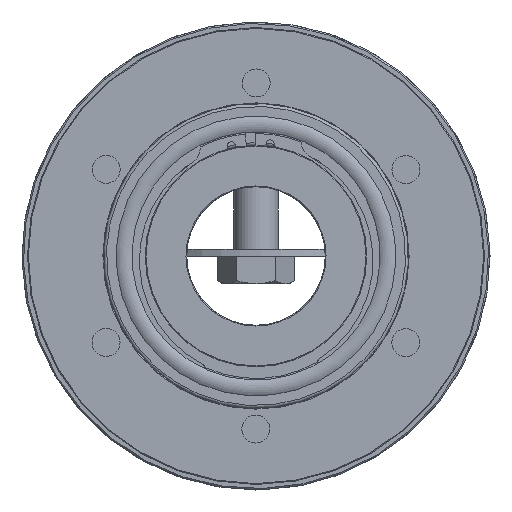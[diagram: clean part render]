
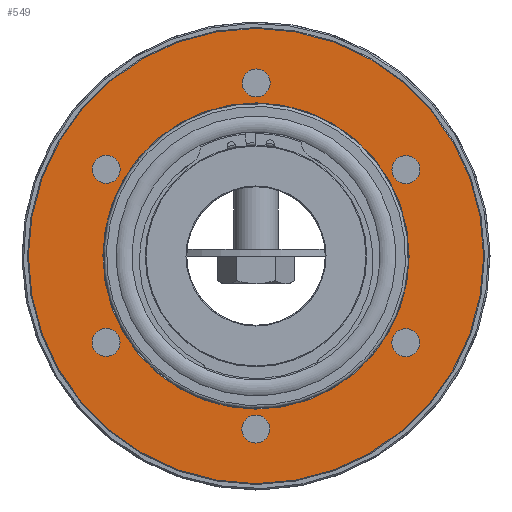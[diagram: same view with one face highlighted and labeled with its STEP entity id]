
A CAD part, left-side view. The second image highlights one B-rep face of the part: STEP entity #549.
In plain terms, the highlighted planar face has unit normal (-1, 0, 0).
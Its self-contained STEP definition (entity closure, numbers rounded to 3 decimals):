
#549 = ADVANCED_FACE( '', ( #1045, #1046, #1047, #1048, #1049, #1050, #1051, #1052 ), #1053, .F. );
#1045 = FACE_OUTER_BOUND( '', #1573, .T. );
#1046 = FACE_BOUND( '', #1574, .T. );
#1047 = FACE_BOUND( '', #1575, .T. );
#1048 = FACE_BOUND( '', #1576, .T. );
#1049 = FACE_BOUND( '', #1577, .T. );
#1050 = FACE_BOUND( '', #1578, .T. );
#1051 = FACE_BOUND( '', #1579, .T. );
#1052 = FACE_BOUND( '', #1580, .T. );
#1053 = PLANE( '', #1581 );
#1573 = EDGE_LOOP( '', ( #2541 ) );
#1574 = EDGE_LOOP( '', ( #2542 ) );
#1575 = EDGE_LOOP( '', ( #2543 ) );
#1576 = EDGE_LOOP( '', ( #2544 ) );
#1577 = EDGE_LOOP( '', ( #2545 ) );
#1578 = EDGE_LOOP( '', ( #2546 ) );
#1579 = EDGE_LOOP( '', ( #2547 ) );
#1580 = EDGE_LOOP( '', ( #2548 ) );
#1581 = AXIS2_PLACEMENT_3D( '', #2549, #2550, #2551 );
#2541 = ORIENTED_EDGE( '', *, *, #3028, .T. );
#2542 = ORIENTED_EDGE( '', *, *, #3029, .T. );
#2543 = ORIENTED_EDGE( '', *, *, #3030, .T. );
#2544 = ORIENTED_EDGE( '', *, *, #3031, .T. );
#2545 = ORIENTED_EDGE( '', *, *, #3032, .T. );
#2546 = ORIENTED_EDGE( '', *, *, #3033, .T. );
#2547 = ORIENTED_EDGE( '', *, *, #3034, .T. );
#2548 = ORIENTED_EDGE( '', *, *, #3035, .T. );
#2549 = CARTESIAN_POINT( '', ( -30.7, 82.5, 0. ) );
#2550 = DIRECTION( '', ( 1., 0., 0. ) );
#2551 = DIRECTION( '', ( 0., 1., 0. ) );
#3028 = EDGE_CURVE( '', #3499, #3499, #3500, .T. );
#3029 = EDGE_CURVE( '', #3501, #3501, #3502, .T. );
#3030 = EDGE_CURVE( '', #3503, #3503, #3504, .T. );
#3031 = EDGE_CURVE( '', #3505, #3505, #3506, .T. );
#3032 = EDGE_CURVE( '', #3507, #3507, #3508, .T. );
#3033 = EDGE_CURVE( '', #3509, #3509, #3510, .T. );
#3034 = EDGE_CURVE( '', #3511, #3511, #3512, .T. );
#3035 = EDGE_CURVE( '', #3513, #3513, #3514, .T. );
#3499 = VERTEX_POINT( '', #4455 );
#3500 = CIRCLE( '', #4456, 82.2 );
#3501 = VERTEX_POINT( '', #4457 );
#3502 = CIRCLE( '', #4458, 55.3 );
#3503 = VERTEX_POINT( '', #4459 );
#3504 = CIRCLE( '', #4460, 5.053 );
#3505 = VERTEX_POINT( '', #4461 );
#3506 = CIRCLE( '', #4462, 5.053 );
#3507 = VERTEX_POINT( '', #4463 );
#3508 = CIRCLE( '', #4464, 5.053 );
#3509 = VERTEX_POINT( '', #4465 );
#3510 = CIRCLE( '', #4466, 5.053 );
#3511 = VERTEX_POINT( '', #4467 );
#3512 = CIRCLE( '', #4468, 5.053 );
#3513 = VERTEX_POINT( '', #4469 );
#3514 = CIRCLE( '', #4470, 5.053 );
#4455 = CARTESIAN_POINT( '', ( -30.7, 0., -82.2 ) );
#4456 = AXIS2_PLACEMENT_3D( '', #5122, #5123, #5124 );
#4457 = CARTESIAN_POINT( '', ( -30.7, 0., -55.3 ) );
#4458 = AXIS2_PLACEMENT_3D( '', #5125, #5126, #5127 );
#4459 = CARTESIAN_POINT( '', ( -30.7, 58.503, 33.777 ) );
#4460 = AXIS2_PLACEMENT_3D( '', #5128, #5129, #5130 );
#4461 = CARTESIAN_POINT( '', ( -30.7, 58.503, -33.777 ) );
#4462 = AXIS2_PLACEMENT_3D( '', #5131, #5132, #5133 );
#4463 = CARTESIAN_POINT( '', ( -30.7, 0., -67.553 ) );
#4464 = AXIS2_PLACEMENT_3D( '', #5134, #5135, #5136 );
#4465 = CARTESIAN_POINT( '', ( -30.7, -58.503, -33.777 ) );
#4466 = AXIS2_PLACEMENT_3D( '', #5137, #5138, #5139 );
#4467 = CARTESIAN_POINT( '', ( -30.7, -58.503, 33.777 ) );
#4468 = AXIS2_PLACEMENT_3D( '', #5140, #5141, #5142 );
#4469 = CARTESIAN_POINT( '', ( -30.7, 0., 67.553 ) );
#4470 = AXIS2_PLACEMENT_3D( '', #5143, #5144, #5145 );
#5122 = CARTESIAN_POINT( '', ( -30.7, 0., 0. ) );
#5123 = DIRECTION( '', ( -1., 0., 0. ) );
#5124 = DIRECTION( '', ( 0., 0., -1. ) );
#5125 = CARTESIAN_POINT( '', ( -30.7, 0., 0. ) );
#5126 = DIRECTION( '', ( 1., 0., 0. ) );
#5127 = DIRECTION( '', ( 0., 0., -1. ) );
#5128 = CARTESIAN_POINT( '', ( -30.7, 54.127, 31.25 ) );
#5129 = DIRECTION( '', ( 1., 0., 0. ) );
#5130 = DIRECTION( '', ( 0., 0.866, 0.5 ) );
#5131 = CARTESIAN_POINT( '', ( -30.7, 54.127, -31.25 ) );
#5132 = DIRECTION( '', ( 1., 0., 0. ) );
#5133 = DIRECTION( '', ( 0., 0.866, -0.5 ) );
#5134 = CARTESIAN_POINT( '', ( -30.7, 0., -62.5 ) );
#5135 = DIRECTION( '', ( 1., 0., 0. ) );
#5136 = DIRECTION( '', ( 0., 0., -1. ) );
#5137 = CARTESIAN_POINT( '', ( -30.7, -54.127, -31.25 ) );
#5138 = DIRECTION( '', ( 1., 0., 0. ) );
#5139 = DIRECTION( '', ( 0., -0.866, -0.5 ) );
#5140 = CARTESIAN_POINT( '', ( -30.7, -54.127, 31.25 ) );
#5141 = DIRECTION( '', ( 1., 0., 0. ) );
#5142 = DIRECTION( '', ( 0., -0.866, 0.5 ) );
#5143 = CARTESIAN_POINT( '', ( -30.7, 0., 62.5 ) );
#5144 = DIRECTION( '', ( 1., 0., 0. ) );
#5145 = DIRECTION( '', ( 0., 0., 1. ) );
